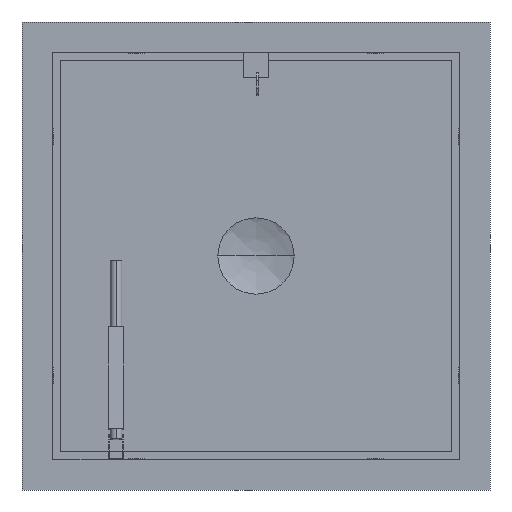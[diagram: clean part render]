
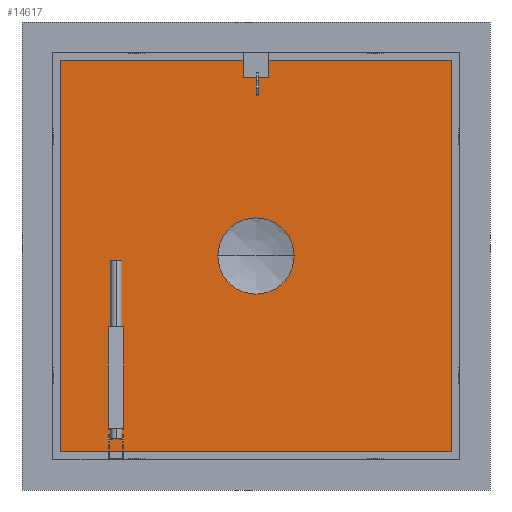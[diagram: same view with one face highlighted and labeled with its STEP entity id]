
A CAD part, front view. The second image highlights one B-rep face of the part: STEP entity #14617.
In plain terms, the highlighted planar face has unit normal (0, -1, 0).
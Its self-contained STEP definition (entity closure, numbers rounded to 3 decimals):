
#5844=DIRECTION('',(0.,0.,-1.));
#5845=VECTOR('',#5844,848.);
#5846=CARTESIAN_POINT('',(424.,75.,415.));
#5847=LINE('',#5846,#5845);
#5852=CARTESIAN_POINT('',(0.,75.,0.));
#5853=DIRECTION('',(0.,-1.,0.));
#5854=DIRECTION('',(-1.,0.,0.));
#5855=AXIS2_PLACEMENT_3D('',#5852,#5853,#5854);
#5857=CARTESIAN_POINT('',(0.,75.,0.));
#5858=DIRECTION('',(0.,-1.,0.));
#5859=DIRECTION('',(1.,0.,0.));
#5860=AXIS2_PLACEMENT_3D('',#5857,#5858,#5859);
#5862=DIRECTION('',(0.,0.,-1.));
#5863=VECTOR('',#5862,30.);
#5864=CARTESIAN_POINT('',(0.,75.,345.));
#5865=LINE('',#5864,#5863);
#5866=DIRECTION('',(1.,0.,0.));
#5867=VECTOR('',#5866,5.);
#5868=CARTESIAN_POINT('',(0.,75.,315.));
#5869=LINE('',#5868,#5867);
#5870=DIRECTION('',(0.,0.,-1.));
#5871=VECTOR('',#5870,30.);
#5872=CARTESIAN_POINT('',(5.,75.,345.));
#5873=LINE('',#5872,#5871);
#5874=DIRECTION('',(1.,0.,0.));
#5875=VECTOR('',#5874,5.);
#5876=CARTESIAN_POINT('',(0.,75.,345.));
#5877=LINE('',#5876,#5875);
#5878=DIRECTION('',(-1.,0.,0.));
#5879=VECTOR('',#5878,848.);
#5880=CARTESIAN_POINT('',(424.,75.,-433.));
#5881=LINE('',#5880,#5879);
#5886=DIRECTION('',(0.,0.,1.));
#5887=VECTOR('',#5886,848.);
#5888=CARTESIAN_POINT('',(-424.,75.,-433.));
#5889=LINE('',#5888,#5887);
#5894=DIRECTION('',(1.,0.,0.));
#5895=VECTOR('',#5894,848.);
#5896=CARTESIAN_POINT('',(-424.,75.,415.));
#5897=LINE('',#5896,#5895);
#11473=CARTESIAN_POINT('',(424.,75.,415.));
#11474=CARTESIAN_POINT('',(424.,75.,-433.));
#11475=VERTEX_POINT('',#11473);
#11476=VERTEX_POINT('',#11474);
#11477=CARTESIAN_POINT('',(-424.,75.,-433.));
#11478=VERTEX_POINT('',#11477);
#11479=CARTESIAN_POINT('',(-424.,75.,415.));
#11480=VERTEX_POINT('',#11479);
#11555=CARTESIAN_POINT('',(0.,75.,345.));
#11556=CARTESIAN_POINT('',(0.,75.,315.));
#11557=VERTEX_POINT('',#11555);
#11558=VERTEX_POINT('',#11556);
#11559=CARTESIAN_POINT('',(5.,75.,345.));
#11560=CARTESIAN_POINT('',(5.,75.,315.));
#11561=VERTEX_POINT('',#11559);
#11562=VERTEX_POINT('',#11560);
#11567=CARTESIAN_POINT('',(-75.,75.,0.));
#11568=CARTESIAN_POINT('',(75.,75.,0.));
#11569=VERTEX_POINT('',#11567);
#11570=VERTEX_POINT('',#11568);
#14587=CARTESIAN_POINT('',(0.,75.,0.));
#14588=DIRECTION('',(0.,1.,0.));
#14589=DIRECTION('',(0.,0.,-1.));
#14590=AXIS2_PLACEMENT_3D('',#14587,#14588,#14589);
#14591=PLANE('',#14590);
#14592=ORIENTED_EDGE('',*,*,#14577,.T.);
#14594=ORIENTED_EDGE('',*,*,#14593,.T.);
#14596=ORIENTED_EDGE('',*,*,#14595,.T.);
#14598=ORIENTED_EDGE('',*,*,#14597,.T.);
#14599=EDGE_LOOP('',(#14592,#14594,#14596,#14598));
#14600=FACE_OUTER_BOUND('',#14599,.F.);
#14602=ORIENTED_EDGE('',*,*,#14601,.T.);
#14604=ORIENTED_EDGE('',*,*,#14603,.T.);
#14605=EDGE_LOOP('',(#14602,#14604));
#14606=FACE_BOUND('',#14605,.F.);
#14608=ORIENTED_EDGE('',*,*,#14607,.T.);
#14610=ORIENTED_EDGE('',*,*,#14609,.T.);
#14612=ORIENTED_EDGE('',*,*,#14611,.F.);
#14614=ORIENTED_EDGE('',*,*,#14613,.F.);
#14615=EDGE_LOOP('',(#14608,#14610,#14612,#14614));
#14616=FACE_BOUND('',#14615,.F.);
#5856=CIRCLE('',#5855,75.);
#5861=CIRCLE('',#5860,75.);
#14577=EDGE_CURVE('',#11475,#11476,#5847,.T.);
#14593=EDGE_CURVE('',#11476,#11478,#5881,.T.);
#14595=EDGE_CURVE('',#11478,#11480,#5889,.T.);
#14597=EDGE_CURVE('',#11480,#11475,#5897,.T.);
#14601=EDGE_CURVE('',#11569,#11570,#5856,.T.);
#14603=EDGE_CURVE('',#11570,#11569,#5861,.T.);
#14607=EDGE_CURVE('',#11557,#11558,#5865,.T.);
#14609=EDGE_CURVE('',#11558,#11562,#5869,.T.);
#14611=EDGE_CURVE('',#11561,#11562,#5873,.T.);
#14613=EDGE_CURVE('',#11557,#11561,#5877,.T.);
#14617=ADVANCED_FACE('',(#14600,#14606,#14616),#14591,.F.);
